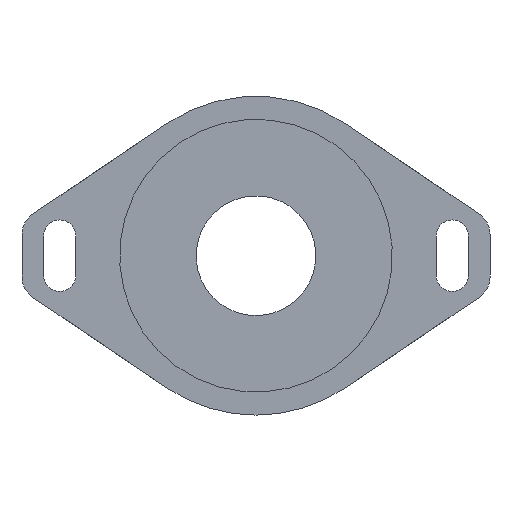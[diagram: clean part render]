
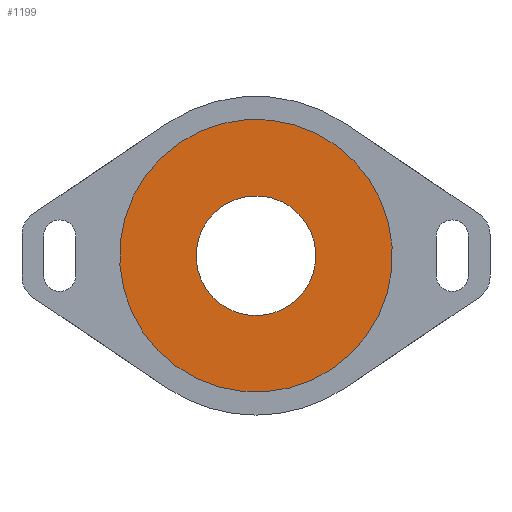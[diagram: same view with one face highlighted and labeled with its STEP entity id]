
A CAD part, front view. The second image highlights one B-rep face of the part: STEP entity #1199.
In plain terms, the highlighted planar face has unit normal (0, -1, 0).
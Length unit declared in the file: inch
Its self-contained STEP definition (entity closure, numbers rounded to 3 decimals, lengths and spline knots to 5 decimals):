
#50 = EDGE_LOOP ( 'NONE', ( #245, #2305 ) ) ;
#245 = ORIENTED_EDGE ( 'NONE', *, *, #1589, .F. ) ;
#483 = EDGE_CURVE ( 'NONE', #2737, #2244, #985, .T. ) ;
#587 = CARTESIAN_POINT ( 'NONE',  ( 1.02054, 0.27569, -0.95796 ) ) ;
#605 = DIRECTION ( 'NONE',  ( 0., -1., 0. ) ) ;
#628 = AXIS2_PLACEMENT_3D ( 'NONE', #1497, #1375, #1139 ) ;
#811 = DIRECTION ( 'NONE',  ( 0., -1., 0. ) ) ;
#829 = DIRECTION ( 'NONE',  ( 0.438, 0., 0.899 ) ) ;
#914 = FACE_BOUND ( 'NONE', #50, .T. ) ;
#917 = AXIS2_PLACEMENT_3D ( 'NONE', #1656, #2526, #1178 ) ;
#980 = CIRCLE ( 'NONE', #2225, 0.61 ) ;
#985 = CIRCLE ( 'NONE', #628, 1.39 ) ;
#1139 = DIRECTION ( 'NONE',  ( 0.438, 0., 0.899 ) ) ;
#1162 = AXIS2_PLACEMENT_3D ( 'NONE', #587, #2190, #829 ) ;
#1178 = DIRECTION ( 'NONE',  ( 0.438, 0., 0.899 ) ) ;
#1199 = ADVANCED_FACE ( 'NONE', ( #914, #1858 ), #2301, .F. ) ;
#1264 = CIRCLE ( 'NONE', #1162, 1.39 ) ;
#1375 = DIRECTION ( 'NONE',  ( 0., 1., 0. ) ) ;
#1406 = ORIENTED_EDGE ( 'NONE', *, *, #1444, .F. ) ;
#1444 = EDGE_CURVE ( 'NONE', #2244, #2737, #1264, .T. ) ;
#1445 = CARTESIAN_POINT ( 'NONE',  ( 1.62899, 0.27569, 0.2918 ) ) ;
#1497 = CARTESIAN_POINT ( 'NONE',  ( 1.02054, 0.27569, -0.95796 ) ) ;
#1508 = CARTESIAN_POINT ( 'NONE',  ( 1.28756, 0.27569, -0.40951 ) ) ;
#1530 = ORIENTED_EDGE ( 'NONE', *, *, #483, .F. ) ;
#1589 = EDGE_CURVE ( 'NONE', #1879, #2018, #980, .T. ) ;
#1656 = CARTESIAN_POINT ( 'NONE',  ( 1.02054, 0.27569, -0.95796 ) ) ;
#1665 = CARTESIAN_POINT ( 'NONE',  ( 0.75352, 0.27569, -1.50641 ) ) ;
#1858 = FACE_OUTER_BOUND ( 'NONE', #2120, .T. ) ;
#1879 = VERTEX_POINT ( 'NONE', #1665 ) ;
#1995 = CARTESIAN_POINT ( 'NONE',  ( 1.02054, 0.27569, -0.95796 ) ) ;
#2018 = VERTEX_POINT ( 'NONE', #1508 ) ;
#2090 = EDGE_CURVE ( 'NONE', #2018, #1879, #2613, .T. ) ;
#2120 = EDGE_LOOP ( 'NONE', ( #1406, #1530 ) ) ;
#2172 = CARTESIAN_POINT ( 'NONE',  ( 1.02054, 0.27569, -0.95796 ) ) ;
#2190 = DIRECTION ( 'NONE',  ( 0., 1., 0. ) ) ;
#2205 = DIRECTION ( 'NONE',  ( -0.438, 0., -0.899 ) ) ;
#2225 = AXIS2_PLACEMENT_3D ( 'NONE', #2172, #811, #2394 ) ;
#2244 = VERTEX_POINT ( 'NONE', #1445 ) ;
#2301 = PLANE ( 'NONE',  #917 ) ;
#2305 = ORIENTED_EDGE ( 'NONE', *, *, #2090, .F. ) ;
#2394 = DIRECTION ( 'NONE',  ( -0.438, 0., -0.899 ) ) ;
#2406 = AXIS2_PLACEMENT_3D ( 'NONE', #1995, #605, #2205 ) ;
#2526 = DIRECTION ( 'NONE',  ( 0., 1., 0. ) ) ;
#2613 = CIRCLE ( 'NONE', #2406, 0.61 ) ;
#2737 = VERTEX_POINT ( 'NONE', #2753 ) ;
#2753 = CARTESIAN_POINT ( 'NONE',  ( 0.41209, 0.27569, -2.20771 ) ) ;
